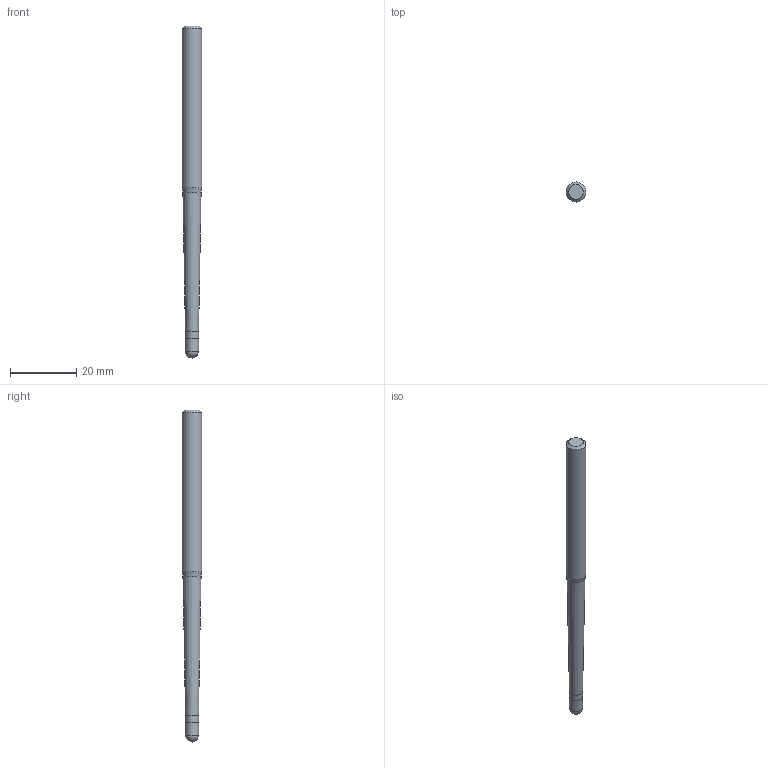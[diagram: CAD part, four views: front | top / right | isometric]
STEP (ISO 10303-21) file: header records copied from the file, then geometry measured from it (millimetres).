
FILE_DESCRIPTION((''),'2;1');
FILE_NAME('C:\Users\nsx150\AppData\Local\Temp\Mastercam 2021\E0ENTZRV18\TEMP.step','2021-09-02T09:57:35',(''),(''),'STEP Write','Mastercam 2021 ... CNC Software, Inc.','');
FILE_SCHEMA(('AUTOMOTIVE_DESIGN'));
Length unit declared in the file: millimetre
Products named in the file (1): None
Bounding box: 6 x 6 x 100 mm (x, y, z)
Volume: 2239.7 mm3; surface area: 1709.5 mm2
Topology: 2 solids, 2 shells, 10 faces, 16 edges, 9 vertices
Faces by surface type: plane 3, cylinder 3, cone 3, sphere 1
Full cylindrical faces by diameter (mm): 3.98 x1, 4 x1, 6 x1
Entity records: 232 total; most frequent: DIRECTION 40, CARTESIAN_POINT 28, AXIS2_PLACEMENT_3D 20, ORIENTED_EDGE 16, EDGE_LOOP 16, STYLED_ITEM 13, ADVANCED_FACE 10, FACE_BOUND 9
